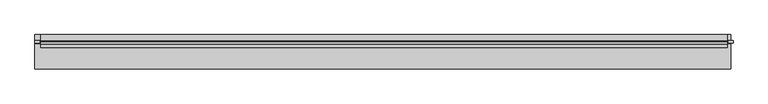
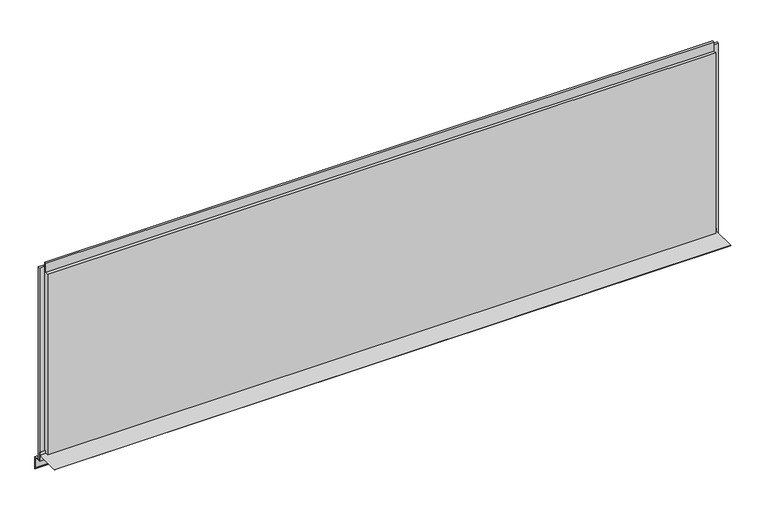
"""IFC4 building model written with IfcOpenShell, lengths in millimetres: plate geometry, Trimo_Qbiss Screen_Normal Panel-HORIZONTAL : HR - B."""

from ifc_helpers import new_model, si_unit, frame, origin, place, context, project, spatial, polyline, outline, extrude, source, transform, mapped, element, save


def plate_f64cf00a(model_context):
    return source(origin(), model_context, "Body", "SweptSolid", [
        extrude(outline(polyline([(66.7, 14.0835797), (67.5, 14.0835797), (67.5, -23.0), (100.0, -25.8433816), (100.0, -76.0), (87.1509533, -63.1509533), (87.7166388, -62.5852679), (99.2, -74.0686292), (99.2, -26.5764465), (66.7, -23.7330649), (66.7, 1.0), (-32.5, 1.0), (-32.5, 1.8), (66.7, 1.8), (66.7, 14.0835797)])), frame((-1346.25, 0.0, 0.0), z_axis=(1.0, 0.0, 0.0), x_axis=(0.0, 1.0, 0.0)), (0.0, 0.0, 1.0), 2687.5),
        extrude(outline(polyline([(-1327.25, 76.5978162), (-1327.25, 67.8978162), (-1346.25, 67.8978162), (-1346.25, 76.5978162), (-1327.25, 76.5978162)])), frame((0.0, 0.0, -20.0), z_axis=(0.0, 0.0, 1.0), x_axis=(1.0, 0.0, 0.0)), (0.0, 0.0, 1.0), 806.95),
        extrude(outline(polyline([(1331.75, 67.8978162), (1331.75, 76.5978162), (1350.75, 76.5978162), (1350.75, 67.8978162), (1331.75, 67.8978162)])), frame((0.0, 0.0, -20.0), z_axis=(0.0, 0.0, 1.0), x_axis=(1.0, 0.0, 0.0)), (0.0, 0.0, 1.0), 806.95),
        extrude(outline(polyline([(1328.75, 76.0), (1328.75, 71.0), (-1324.25, 71.0), (-1324.25, 76.0), (1328.75, 76.0)])), frame((0.0, 0.0, 765.95), z_axis=(0.0, 0.0, 1.0), x_axis=(1.0, 0.0, 0.0)), (0.0, 0.0, 1.0), 21.0),
        extrude(outline(polyline([(71.0, 764.95), (100.0, 764.95), (100.0, 0.0), (72.0, 0.0), (72.0, 15.5), (62.0, 15.5), (62.0, 7.0), (50.0, 7.0), (50.0, 764.95), (63.0, 764.95), (63.0, 802.45), (71.0, 802.45), (71.0, 764.95)])), frame((-1324.25, 0.0, 0.0), z_axis=(1.0, 0.0, 0.0), x_axis=(0.0, 1.0, 0.0)), (0.0, 0.0, 1.0), 2653.0),
    ])


if __name__ == "__main__":
    model = new_model("IFC4")
    model_context = context("Model", 3, world=origin())
    ifc_project = project(units=[si_unit("LENGTHUNIT", "METRE", prefix="MILLI")], contexts=[model_context])
    site = spatial("IfcSite", under=ifc_project)
    building = spatial("IfcBuilding", under=site)
    placement = place(None, origin())
    plate_shape = plate_f64cf00a(model_context)
    element("IfcPlate", 1, ObjectType="Trimo_Qbiss Screen_Normal Panel-HORIZONTAL : HR - B", at=placement, inside=building, context=model_context, shape_type="MappedRepresentation", body=[
        mapped(plate_shape, transform((0.0, 0.0, 0.0), x_axis=(1.0, 0.0, 0.0), y_axis=(0.0, 1.0, 0.0), z_axis=(0.0, 0.0, 1.0))),
    ])
    save(model, "model.ifc")
